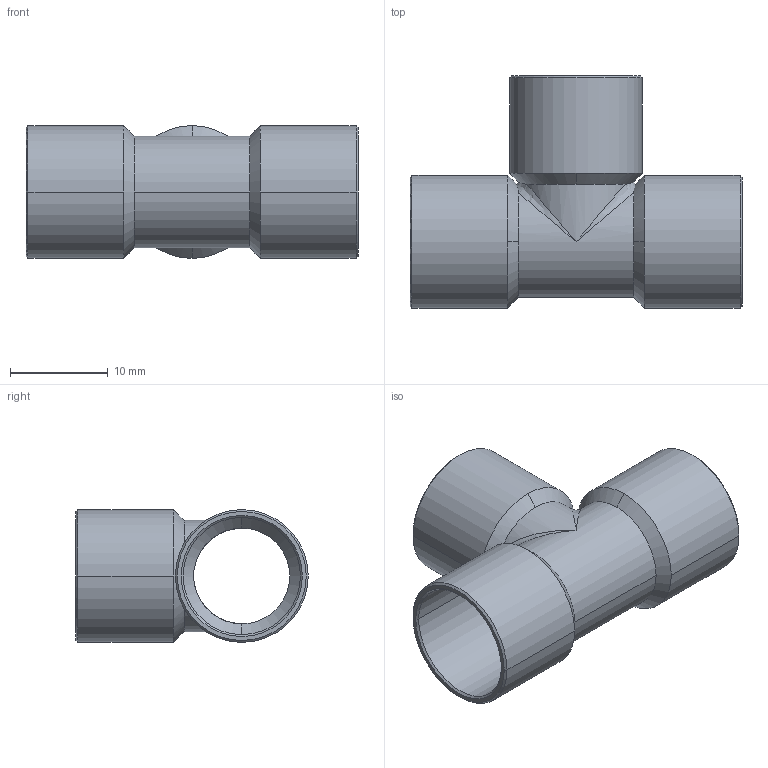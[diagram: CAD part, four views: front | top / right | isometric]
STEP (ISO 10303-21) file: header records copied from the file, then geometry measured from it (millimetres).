
FILE_DESCRIPTION((''),'2;1');
FILE_NAME('P:\Bouwmaten\z-maattekeningen 3D\5000\5130\d\513012.stp','2005-10-19T08:58:42',('Kris'),(''),'Autodesk Inventor 8','Autodesk Inventor 8','');
FILE_SCHEMA(('AUTOMOTIVE_DESIGN { 1 0 10303 214 1 1 1 1 }'));
Length unit declared in the file: millimetre
Products named in the file (1): 513012
Bounding box: 34 x 23.8 x 13.6 mm (x, y, z)
Volume: 1380.3 mm3; surface area: 3529.2 mm2
Topology: 1 solids, 1 shells, 51 faces, 142 edges, 84 vertices
Faces by surface type: cone 24, cylinder 20, bspline 4, plane 3
Entity records: 2095 total; most frequent: CARTESIAN_POINT 754, DIRECTION 310, ORIENTED_EDGE 268, AXIS2_PLACEMENT_3D 136, EDGE_CURVE 134, VERTEX_POINT 84, CIRCLE 72, EDGE_LOOP 54
